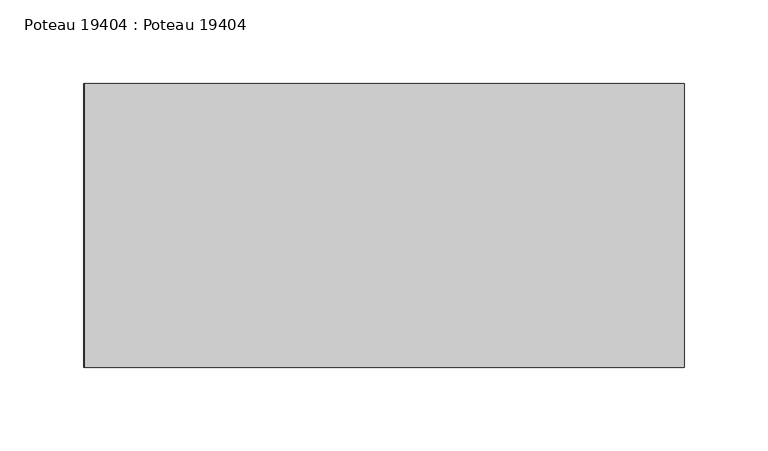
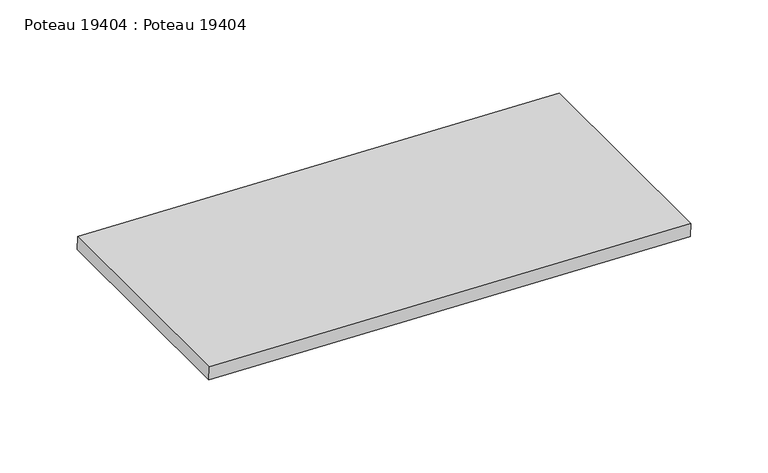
"""IFC4 building model written with IfcOpenShell, lengths in millimetres: beam geometry, Poteau 19404 : Poteau 19404."""

from ifc_helpers import new_model, si_unit, frame, origin, place, context, project, spatial, polyline, outline, extrude, source, transform, mapped, element, save


def poteau_19404_poteau_19404_5077e3f3(model_context):
    return source(origin(), model_context, "Body", "SweptSolid", [
        extrude(outline(polyline([(0.0, -359.5280199), (0.0, 0.0), (170.0, 0.0), (170.0, -359.5280199), (0.0, -359.5280199)])), frame((179.6180528, -8515.0, 8017.407245), z_axis=(0.03497858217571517, 0.0, 0.9993880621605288), x_axis=(0.0, -1.0, 0.0)), (0.0, 0.0, 1.0), 10.0),
    ])


if __name__ == "__main__":
    model = new_model("IFC4")
    model_context = context("Model", 3, world=origin())
    ifc_project = project(units=[si_unit("LENGTHUNIT", "METRE", prefix="MILLI")], contexts=[model_context])
    site = spatial("IfcSite", under=ifc_project)
    building = spatial("IfcBuilding", under=site)
    placement = place(None, origin())
    poteau_19404_poteau_19404_shape = poteau_19404_poteau_19404_5077e3f3(model_context)
    element("IfcBeam", 1, ObjectType="Poteau 19404 : Poteau 19404", at=placement, inside=building, context=model_context, shape_type="MappedRepresentation", body=[
        mapped(poteau_19404_poteau_19404_shape, transform((0.0, 0.0, 0.0), x_axis=(1.0, 0.0, 0.0), y_axis=(0.0, 1.0, 0.0), z_axis=(0.0, 0.0, 1.0))),
    ])
    save(model, "model.ifc")
